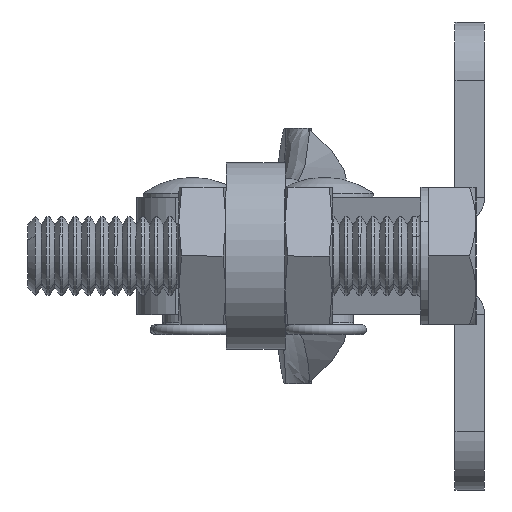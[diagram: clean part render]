
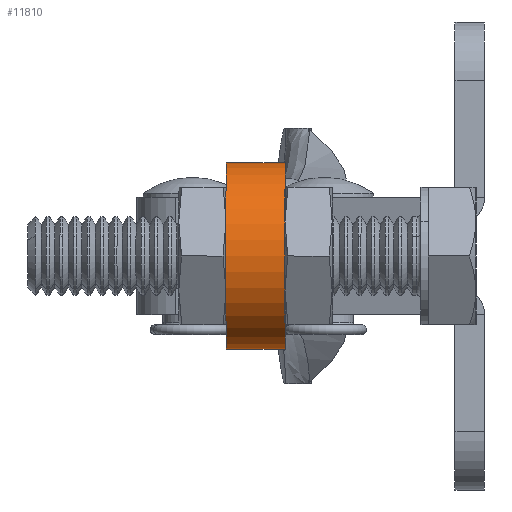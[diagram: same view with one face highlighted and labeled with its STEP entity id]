
A CAD part, left-side view. The second image highlights one B-rep face of the part: STEP entity #11810.
In plain terms, the highlighted cylindrical face has radius 4.75 mm (diameter 9.5 mm), a partial arc.
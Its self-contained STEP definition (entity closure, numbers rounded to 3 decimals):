
#52 = EDGE_CURVE ( 'NONE', #3513, #7427, #7649, .T. ) ;
#563 = CIRCLE ( 'NONE', #12550, 4.75 ) ;
#769 = VERTEX_POINT ( 'NONE', #6605 ) ;
#921 = ORIENTED_EDGE ( 'NONE', *, *, #52, .F. ) ;
#1469 = CYLINDRICAL_SURFACE ( 'NONE', #7090, 4.75 ) ;
#1616 = DIRECTION ( 'NONE',  ( 0., 1., 0. ) ) ;
#1779 = EDGE_CURVE ( 'NONE', #769, #7427, #12597, .T. ) ;
#2587 = DIRECTION ( 'NONE',  ( 0., 0., 1. ) ) ;
#2593 = CARTESIAN_POINT ( 'NONE',  ( -25.25, -1.5, 0. ) ) ;
#2694 = CARTESIAN_POINT ( 'NONE',  ( -25.25, -6.201, 4.75 ) ) ;
#3513 = VERTEX_POINT ( 'NONE', #4112 ) ;
#3720 = EDGE_CURVE ( 'NONE', #769, #10969, #563, .T. ) ;
#4112 = CARTESIAN_POINT ( 'NONE',  ( -25.25, 1.5, -4.75 ) ) ;
#4699 = EDGE_CURVE ( 'NONE', #10969, #3513, #8915, .T. ) ;
#4700 = DIRECTION ( 'NONE',  ( 0., 1., 0. ) ) ;
#4812 = ORIENTED_EDGE ( 'NONE', *, *, #3720, .F. ) ;
#4827 = CARTESIAN_POINT ( 'NONE',  ( -25.25, -1.5, -4.75 ) ) ;
#5223 = DIRECTION ( 'NONE',  ( 0., 0., 1. ) ) ;
#5816 = CARTESIAN_POINT ( 'NONE',  ( -25.25, 1.5, 4.75 ) ) ;
#6605 = CARTESIAN_POINT ( 'NONE',  ( -25.25, -1.5, 4.75 ) ) ;
#6644 = FACE_OUTER_BOUND ( 'NONE', #7670, .T. ) ;
#7088 = DIRECTION ( 'NONE',  ( 0., 1., 0. ) ) ;
#7090 = AXIS2_PLACEMENT_3D ( 'NONE', #9375, #1616, #2587 ) ;
#7427 = VERTEX_POINT ( 'NONE', #5816 ) ;
#7649 = CIRCLE ( 'NONE', #12513, 4.75 ) ;
#7670 = EDGE_LOOP ( 'NONE', ( #8097, #4812, #10302, #921 ) ) ;
#8097 = ORIENTED_EDGE ( 'NONE', *, *, #4699, .F. ) ;
#8915 = LINE ( 'NONE', #10536, #11500 ) ;
#9233 = DIRECTION ( 'NONE',  ( 0., 0., 1. ) ) ;
#9375 = CARTESIAN_POINT ( 'NONE',  ( -25.25, -6.201, 0. ) ) ;
#9422 = CARTESIAN_POINT ( 'NONE',  ( -25.25, 1.5, 0. ) ) ;
#9867 = DIRECTION ( 'NONE',  ( 0., -1., 0. ) ) ;
#9975 = VECTOR ( 'NONE', #11916, 1000. ) ;
#10302 = ORIENTED_EDGE ( 'NONE', *, *, #1779, .T. ) ;
#10536 = CARTESIAN_POINT ( 'NONE',  ( -25.25, -6.201, -4.75 ) ) ;
#10969 = VERTEX_POINT ( 'NONE', #4827 ) ;
#11500 = VECTOR ( 'NONE', #7088, 1000. ) ;
#11810 = ADVANCED_FACE ( 'NONE', ( #6644 ), #1469, .T. ) ;
#11916 = DIRECTION ( 'NONE',  ( 0., 1., 0. ) ) ;
#12513 = AXIS2_PLACEMENT_3D ( 'NONE', #9422, #4700, #9233 ) ;
#12550 = AXIS2_PLACEMENT_3D ( 'NONE', #2593, #9867, #5223 ) ;
#12597 = LINE ( 'NONE', #2694, #9975 ) ;
